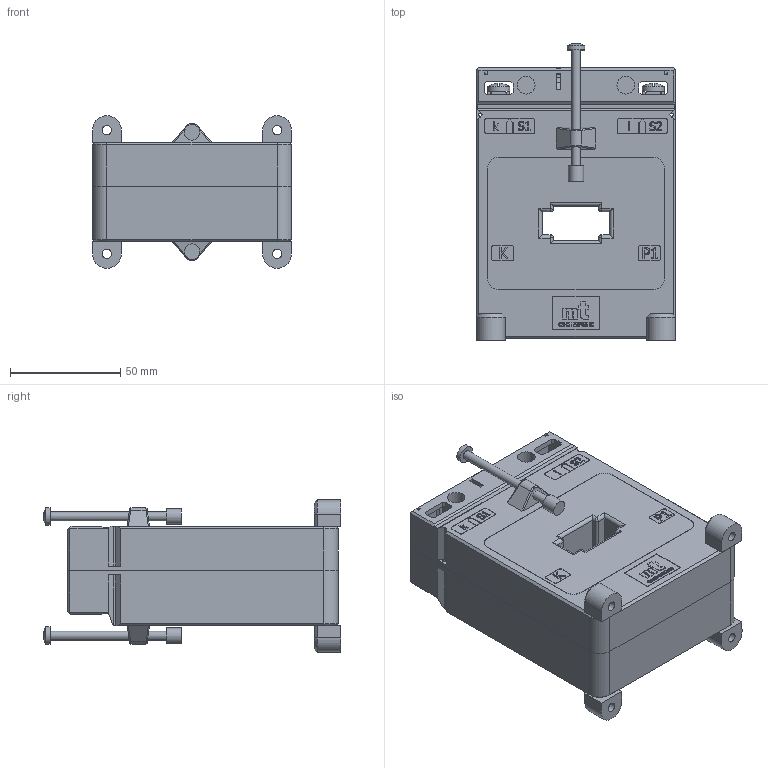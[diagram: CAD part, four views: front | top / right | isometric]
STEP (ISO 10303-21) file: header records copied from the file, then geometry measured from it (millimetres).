
FILE_DESCRIPTION(/* description */ (''),/* implementation_level */ '2;1');
FILE_NAME(/* name */ 'CLB 3.91.step',/* time_stamp */ '2024-10-12T12:47:26+02:00',/* author */ ('peter'),/* organization */ (''),/* preprocessor_version */ 'ST-DEVELOPER v20',/* originating_system */ 'Autodesk Inventor 2025',/* authorisation */ '');
FILE_SCHEMA (('AUTOMOTIVE_DESIGN { 1 0 10303 214 3 1 1 }'));
Length unit declared in the file: millimetre
Products named in the file (11): Current transformer CLB 3.91; Front plastic case CLB 3.91; Back plastic case CLB 3.91; Tape label CLB 3.91; Secondary terminal 28 CLB; Secondary terminal cover 37B CLB; Plastic mounting foot; Rivet 20; Insulating cap; Screw M5x8; Screw 4x60
Assembly tree (23 placements, depth 2):
  Current transformer CLB 3.91
    Front plastic case CLB 3.91
    Back plastic case CLB 3.91
    Tape label CLB 3.91
    Secondary terminal 28 CLB  x2
    Secondary terminal cover 37B CLB  x2
    Plastic mounting foot  x4
    Rivet 20  x4
    Insulating cap  x2
    Screw M5x8  x4
    Screw 4x60  x2
Bounding box: 90 x 134.47 x 69 mm (x, y, z)
Volume: 453495 mm3; surface area: 89528.5 mm2
Topology: 23 solids, 27 shells, 1828 faces, 4888 edges, 3204 vertices
Faces by surface type: plane 1142, bspline 399, cylinder 231, cone 38, sphere 10, torus 8
Full cylindrical faces by diameter (mm): 1.5 x4, 2.4 x4, 2.95 x2, 3 x6, 3.5 x2, 4 x8, 4.1 x4, 4.134 x4, 4.2 x4, 4.5 x4, 5 x8, 7 x2, 8 x18, 9 x4, 10 x4
Entity records: 50952 total; most frequent: CARTESIAN_POINT 14014, ORIENTED_EDGE 8316, DIRECTION 6023, EDGE_CURVE 4158, LINE 2987, VECTOR 2987, VERTEX_POINT 2735, EDGE_LOOP 1681
